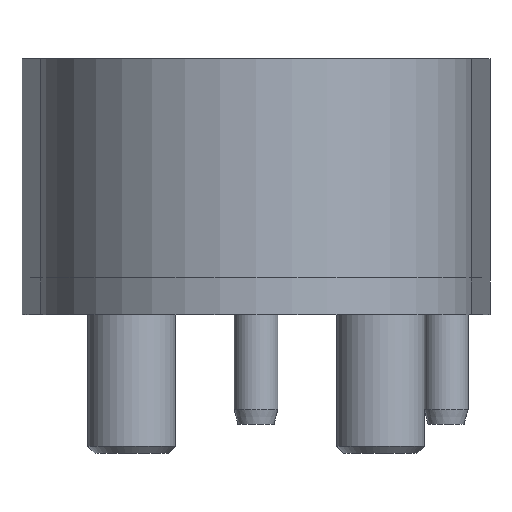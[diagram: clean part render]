
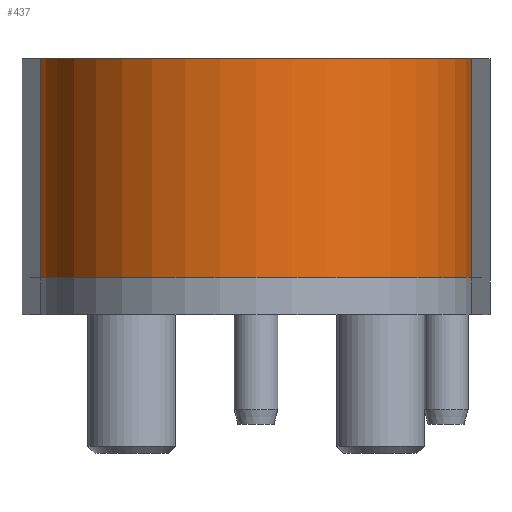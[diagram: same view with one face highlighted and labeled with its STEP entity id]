
A CAD part, left-side view. The second image highlights one B-rep face of the part: STEP entity #437.
In plain terms, the highlighted cylindrical face has radius 29.5 mm (diameter 59 mm), a partial arc.
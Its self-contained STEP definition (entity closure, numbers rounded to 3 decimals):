
#119=CYLINDRICAL_SURFACE('',#2648,29.5);
#273=CIRCLE('',#2646,29.5);
#274=CIRCLE('',#2647,29.5);
#437=ADVANCED_FACE('',(#657),#119,.T.);
#657=FACE_OUTER_BOUND('',#797,.T.);
#797=EDGE_LOOP('',(#1083,#1084,#1085,#1086));
#1083=ORIENTED_EDGE('',*,*,#1933,.T.);
#1084=ORIENTED_EDGE('',*,*,#1934,.F.);
#1085=ORIENTED_EDGE('',*,*,#1935,.F.);
#1086=ORIENTED_EDGE('',*,*,#1936,.T.);
#1687=VERTEX_POINT('',#3845);
#1688=VERTEX_POINT('',#3846);
#1689=VERTEX_POINT('',#3848);
#1690=VERTEX_POINT('',#3850);
#1933=EDGE_CURVE('',#1687,#1688,#2263,.T.);
#1934=EDGE_CURVE('',#1689,#1688,#273,.T.);
#1935=EDGE_CURVE('',#1690,#1689,#2264,.T.);
#1936=EDGE_CURVE('',#1690,#1687,#274,.T.);
#2263=LINE('',#3844,#2455);
#2264=LINE('',#3849,#2456);
#2455=VECTOR('',#3047,1.);
#2456=VECTOR('',#3050,1.);
#2646=AXIS2_PLACEMENT_3D('',#3847,#3048,#3049);
#2647=AXIS2_PLACEMENT_3D('',#3851,#3051,#3052);
#2648=AXIS2_PLACEMENT_3D('',#3852,#3053,#3054);
#3047=DIRECTION('',(0.,0.,1.));
#3048=DIRECTION('',(0.,0.,1.));
#3049=DIRECTION('',(0.,1.,0.));
#3050=DIRECTION('',(0.,0.,1.));
#3051=DIRECTION('',(0.,0.,1.));
#3052=DIRECTION('',(0.,1.,0.));
#3053=DIRECTION('',(0.,0.,1.));
#3054=DIRECTION('',(-1.,0.,0.));
#3844=CARTESIAN_POINT('',(-1.989,-29.433,5.));
#3845=CARTESIAN_POINT('',(-1.989,-29.433,5.));
#3846=CARTESIAN_POINT('',(-1.989,-29.433,35.));
#3847=CARTESIAN_POINT('',(0.,0.,35.));
#3848=CARTESIAN_POINT('',(-1.989,29.433,35.));
#3849=CARTESIAN_POINT('',(-1.989,29.433,5.));
#3850=CARTESIAN_POINT('',(-1.989,29.433,5.));
#3851=CARTESIAN_POINT('',(0.,0.,5.));
#3852=CARTESIAN_POINT('',(0.,0.,0.));
